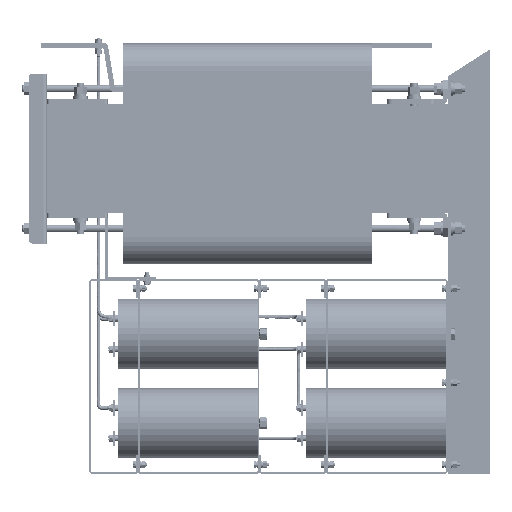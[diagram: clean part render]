
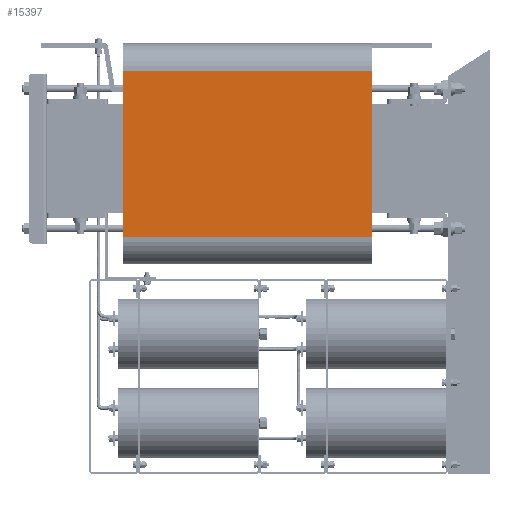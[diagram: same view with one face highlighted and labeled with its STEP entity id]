
A CAD part, left-side view. The second image highlights one B-rep face of the part: STEP entity #15397.
In plain terms, the highlighted planar face has unit normal (-1, 0, 0).
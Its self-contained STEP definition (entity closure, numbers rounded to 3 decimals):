
#15397=ADVANCED_FACE('',(#25385),#25387,.F.);
#25385=FACE_BOUND('',#25386,.T.);
#25386=EDGE_LOOP('',(#40219,#40220,#40221,#40222));
#25387=PLANE('',#25388);
#25388=AXIS2_PLACEMENT_3D('',#25389,#25390,#25391);
#25389=CARTESIAN_POINT('',(-107.5,174.,205.));
#25390=DIRECTION('',(1.,0.,0.));
#25391=DIRECTION('',(0.,1.,0.));
#40219=ORIENTED_EDGE('',*,*,#45345,.F.);
#40220=ORIENTED_EDGE('',*,*,#45379,.T.);
#40221=ORIENTED_EDGE('',*,*,#45359,.T.);
#40222=ORIENTED_EDGE('',*,*,#45380,.T.);
#45345=EDGE_CURVE('',#48203,#48205,#48206,.T.);
#45359=EDGE_CURVE('',#48232,#48233,#48234,.T.);
#45379=EDGE_CURVE('',#48203,#48232,#48268,.T.);
#45380=EDGE_CURVE('',#48233,#48205,#48269,.T.);
#48203=VERTEX_POINT('',#53316);
#48205=VERTEX_POINT('',#53321);
#48206=LINE('',#53322,#53323);
#48232=VERTEX_POINT('',#53383);
#48233=VERTEX_POINT('',#53384);
#48234=LINE('',#53385,#53386);
#48268=LINE('',#53467,#53468);
#48269=LINE('',#53470,#53471);
#53316=CARTESIAN_POINT('',(-107.5,129.,205.));
#53321=CARTESIAN_POINT('',(-107.5,-145.,205.));
#53322=CARTESIAN_POINT('',(-107.5,129.,205.));
#53323=VECTOR('',#53324,1.);
#53324=DIRECTION('',(0.,-1.,0.));
#53383=CARTESIAN_POINT('',(-107.5,129.,-205.));
#53384=CARTESIAN_POINT('',(-107.5,-145.,-205.));
#53385=CARTESIAN_POINT('',(-107.5,129.,-205.));
#53386=VECTOR('',#53387,1.);
#53387=DIRECTION('',(0.,-1.,0.));
#53467=CARTESIAN_POINT('',(-107.5,129.,205.));
#53468=VECTOR('',#53469,1.);
#53469=DIRECTION('',(0.,0.,-1.));
#53470=CARTESIAN_POINT('',(-107.5,-145.,-205.));
#53471=VECTOR('',#53472,1.);
#53472=DIRECTION('',(0.,0.,1.));
